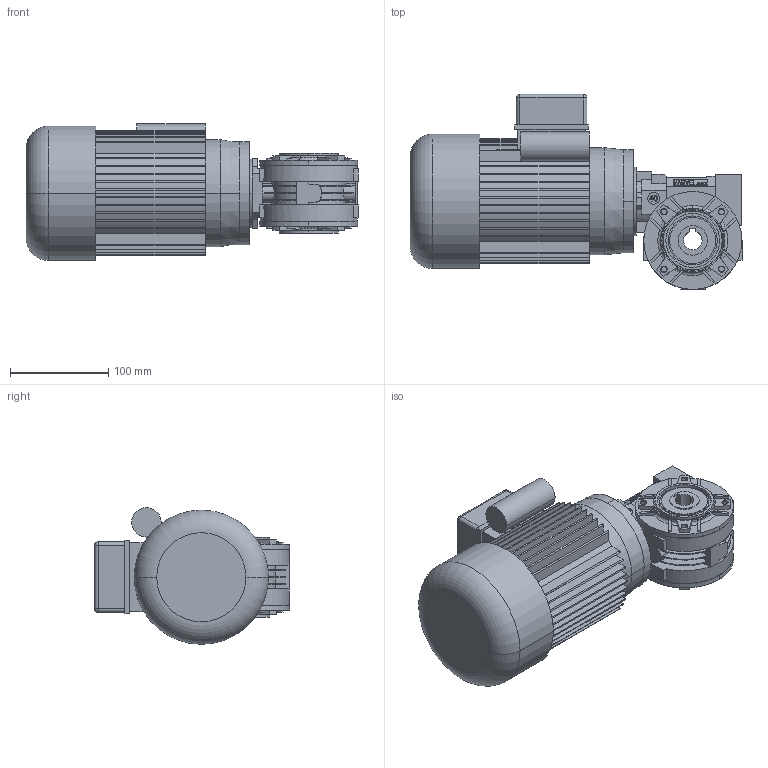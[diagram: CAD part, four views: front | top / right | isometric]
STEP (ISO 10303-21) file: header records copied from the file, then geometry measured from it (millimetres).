
FILE_DESCRIPTION (( 'STEP AP214' ), '1' );
FILE_NAME ('M71B14+RS40.STEP', '2020-04-22T08:14:40', ( '' ), ( '' ), 'SwSTEP 2.0', 'SolidWorks 2018', '' );
FILE_SCHEMA (( 'AUTOMOTIVE_DESIGN' ));
Length unit declared in the file: millimetre
Products named in the file (3): M71B14+RS40; M71B14; RS40-71
Assembly tree (2 placements, depth 2):
  M71B14+RS40
    RS40-71
    M71B14
Bounding box: 338.75 x 199 x 139.5 mm (x, y, z)
Volume: 3415779.7 mm3; surface area: 332835.6 mm2
Topology: 3 solids, 4 shells, 947 faces, 2491 edges, 1630 vertices
Faces by surface type: plane 569, cylinder 264, torus 68, cone 42, sphere 4
Entity records: 31925 total; most frequent: CARTESIAN_POINT 7668, ORIENTED_EDGE 4974, DIRECTION 4941, EDGE_CURVE 2487, AXIS2_PLACEMENT_3D 1686, VERTEX_POINT 1630, LINE 1569, VECTOR 1569
